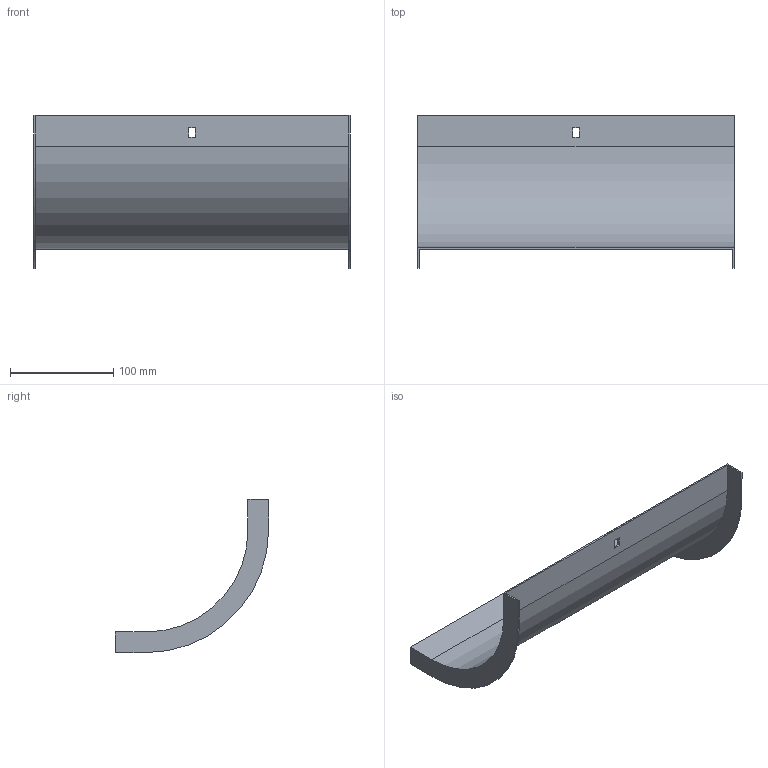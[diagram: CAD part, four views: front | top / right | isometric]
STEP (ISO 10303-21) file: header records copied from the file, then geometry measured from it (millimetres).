
FILE_DESCRIPTION (( 'STEP AP214' ), '1' );
FILE_NAME ('30G1P300.step', '2025-02-21T12:48:31', ( '' ), ( '' ), 'SwSTEP 2.0', 'SolidWorks 2023', '' );
FILE_SCHEMA (( 'AUTOMOTIVE_DESIGN' ));
Length unit declared in the file: millimetre
Products named in the file (1): 30G1P300
Bounding box: 307 x 148.5 x 148.5 mm (x, y, z)
Volume: 112101.5 mm3; surface area: 151328.5 mm2
Topology: 1 solids, 1 shells, 26 faces, 72 edges, 48 vertices
Faces by surface type: plane 22, cylinder 4
Entity records: 855 total; most frequent: CARTESIAN_POINT 147, ORIENTED_EDGE 144, DIRECTION 134, EDGE_CURVE 72, VECTOR 64, LINE 64, VERTEX_POINT 48, AXIS2_PLACEMENT_3D 35
